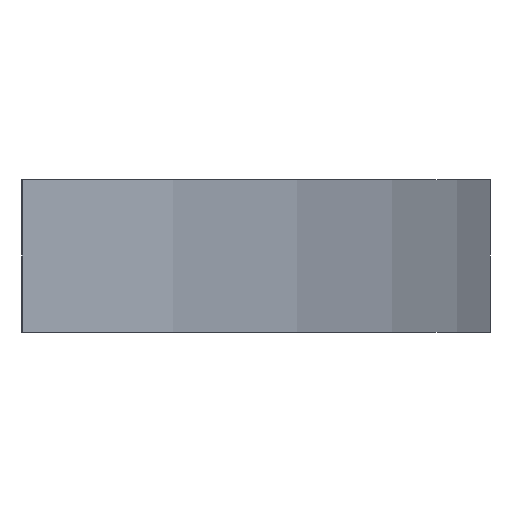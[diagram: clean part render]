
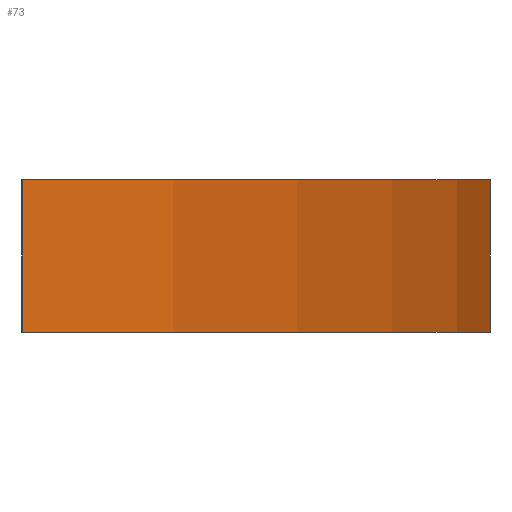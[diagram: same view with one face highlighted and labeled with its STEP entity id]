
A CAD part, left-side view. The second image highlights one B-rep face of the part: STEP entity #73.
In plain terms, the highlighted cylindrical face has radius 105 mm (diameter 210 mm), a partial arc.
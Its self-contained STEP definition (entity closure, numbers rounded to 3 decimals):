
#73 = ADVANCED_FACE( '', ( #136 ), #137, .T. );
#136 = FACE_OUTER_BOUND( '', #184, .T. );
#137 = CYLINDRICAL_SURFACE( '', #185, 105. );
#184 = EDGE_LOOP( '', ( #251, #252, #253, #254 ) );
#185 = AXIS2_PLACEMENT_3D( '', #255, #256, #257 );
#251 = ORIENTED_EDGE( '', *, *, #286, .T. );
#252 = ORIENTED_EDGE( '', *, *, #275, .F. );
#253 = ORIENTED_EDGE( '', *, *, #269, .F. );
#254 = ORIENTED_EDGE( '', *, *, #281, .T. );
#255 = CARTESIAN_POINT( '', ( 64., 73.992, 5. ) );
#256 = DIRECTION( '', ( 0., 0., 1. ) );
#257 = DIRECTION( '', ( -1., 0., 0. ) );
#269 = EDGE_CURVE( '', #297, #299, #300, .T. );
#275 = EDGE_CURVE( '', #299, #305, #309, .T. );
#281 = EDGE_CURVE( '', #297, #315, #317, .T. );
#286 = EDGE_CURVE( '', #315, #305, #324, .T. );
#297 = VERTEX_POINT( '', #335 );
#299 = VERTEX_POINT( '', #338 );
#300 = CIRCLE( '', #339, 105. );
#305 = VERTEX_POINT( '', #345 );
#309 = LINE( '', #351, #352 );
#315 = VERTEX_POINT( '', #359 );
#317 = LINE( '', #362, #363 );
#324 = CIRCLE( '', #370, 105. );
#335 = CARTESIAN_POINT( '', ( -10.5, 0., 5. ) );
#338 = CARTESIAN_POINT( '', ( 138.5, 0., 5. ) );
#339 = AXIS2_PLACEMENT_3D( '', #381, #382, #383 );
#345 = CARTESIAN_POINT( '', ( 138.5, 0., -5. ) );
#351 = CARTESIAN_POINT( '', ( 138.5, 0., 5. ) );
#352 = VECTOR( '', #390, 1000. );
#359 = CARTESIAN_POINT( '', ( -10.5, 0., -5. ) );
#362 = CARTESIAN_POINT( '', ( -10.5, 0., 5. ) );
#363 = VECTOR( '', #396, 1000. );
#370 = AXIS2_PLACEMENT_3D( '', #403, #404, #405 );
#381 = CARTESIAN_POINT( '', ( 64., 73.992, 5. ) );
#382 = DIRECTION( '', ( 0., 0., 1. ) );
#383 = DIRECTION( '', ( 1., 0., 0. ) );
#390 = DIRECTION( '', ( 0., 0., -1. ) );
#396 = DIRECTION( '', ( 0., 0., -1. ) );
#403 = CARTESIAN_POINT( '', ( 64., 73.992, -5. ) );
#404 = DIRECTION( '', ( 0., 0., 1. ) );
#405 = DIRECTION( '', ( 1., 0., 0. ) );
